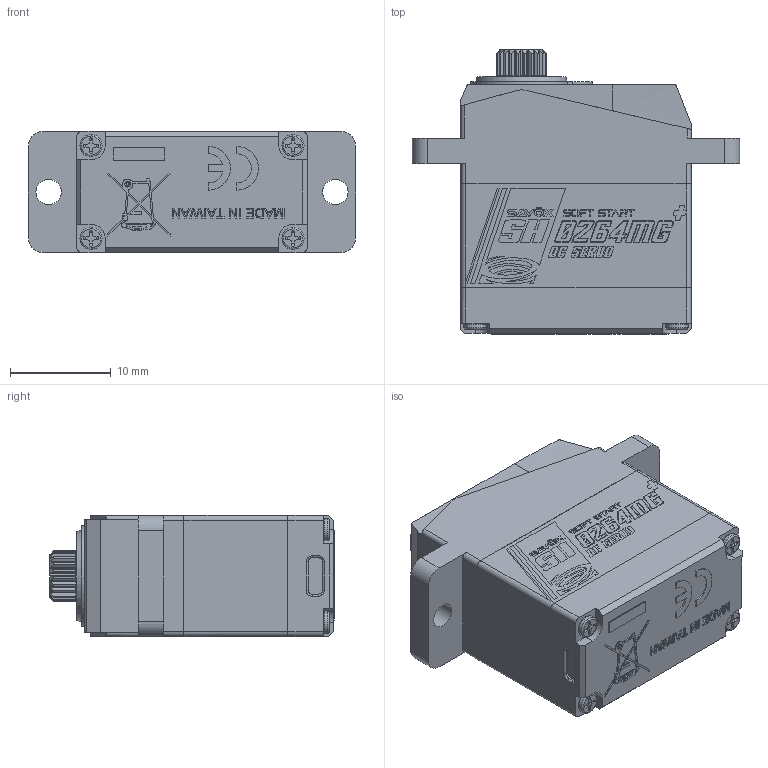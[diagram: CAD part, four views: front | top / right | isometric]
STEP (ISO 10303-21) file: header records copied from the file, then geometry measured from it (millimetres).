
FILE_DESCRIPTION (( 'STEP AP214' ), '1' );
FILE_NAME ('SH-0264MG+_3D??+??.STEP', '2025-05-07T11:54:28', ( '' ), ( '' ), 'SwSTEP 2.0', 'SolidWorks 2024', '' );
FILE_SCHEMA (( 'AUTOMOTIVE_DESIGN' ));
Length unit declared in the file: millimetre
Products named in the file (1): SH-0264MG+_3D零件+齒輪
Bounding box: 32.4 x 28.2 x 12 mm (x, y, z)
Volume: 6973.9 mm3; surface area: 2635.2 mm2
Topology: 1 solids, 1 shells, 720 faces, 4003 edges, 3453 vertices
Faces by surface type: plane 505, cylinder 162, bspline 50, cone 3
Full cylindrical faces by diameter (mm): 0.287 x1, 0.547 x1, 1.6 x1, 2.2 x4, 2.5 x2, 4.2 x1, 7.2 x1
Entity records: 52410 total; most frequent: CARTESIAN_POINT 14250, ORIENTED_EDGE 7958, DIRECTION 4299, EDGE_CURVE 3979, VERTEX_POINT 3451, LINE 2387, VECTOR 2387, B_SPLINE_CURVE_WITH_KNOTS 1271
